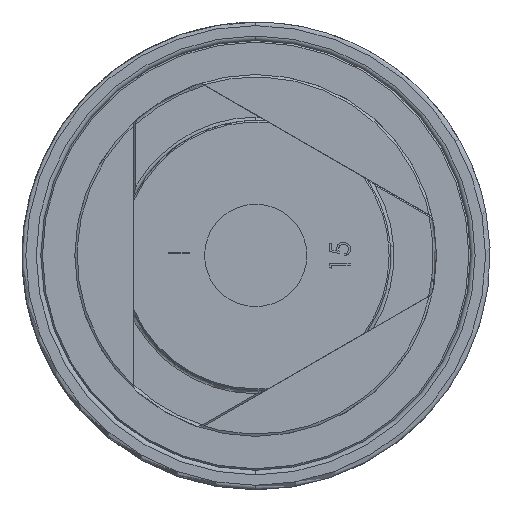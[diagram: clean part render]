
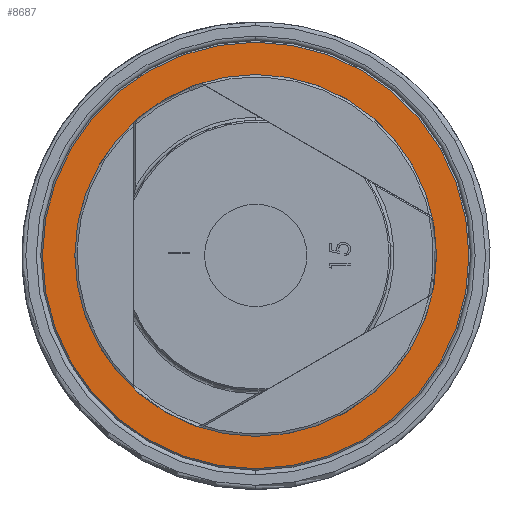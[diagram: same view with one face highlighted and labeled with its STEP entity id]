
A CAD part, left-side view. The second image highlights one B-rep face of the part: STEP entity #8687.
In plain terms, the highlighted planar face has unit normal (-1, 0, 0).
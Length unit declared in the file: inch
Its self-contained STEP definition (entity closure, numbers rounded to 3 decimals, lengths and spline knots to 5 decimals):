
#1 = CARTESIAN_POINT ( 'NONE',  ( -2.63751, -0.11214, -0.45599 ) ) ;
#2 = CARTESIAN_POINT ( 'NONE',  ( -2.63751, -0.11214, 1.77201 ) ) ;
#134 = DIRECTION ( 'NONE',  ( -1., 0., 0. ) ) ;
#721 = EDGE_CURVE ( 'NONE', #11844, #13186, #7480, .T. ) ;
#808 = EDGE_CURVE ( 'NONE', #13186, #11844, #13742, .T. ) ;
#1151 = DIRECTION ( 'NONE',  ( 0., 0., 1. ) ) ;
#1178 = PLANE ( 'NONE',  #8708 ) ;
#1377 = CARTESIAN_POINT ( 'NONE',  ( -2.63751, -0.11214, 0.65801 ) ) ;
#1871 = DIRECTION ( 'NONE',  ( -1., 0., 0. ) ) ;
#2012 = ORIENTED_EDGE ( 'NONE', *, *, #808, .T. ) ;
#2215 = CIRCLE ( 'NONE', #10510, 1.114 ) ;
#2263 = AXIS2_PLACEMENT_3D ( 'NONE', #1377, #5790, #6589 ) ;
#2647 = AXIS2_PLACEMENT_3D ( 'NONE', #12489, #11190, #3676 ) ;
#3676 = DIRECTION ( 'NONE',  ( 0., 0., -1. ) ) ;
#4231 = ORIENTED_EDGE ( 'NONE', *, *, #721, .T. ) ;
#4654 = CARTESIAN_POINT ( 'NONE',  ( -2.63751, -0.11214, -0.65499 ) ) ;
#4691 = VERTEX_POINT ( 'NONE', #2 ) ;
#4801 = EDGE_LOOP ( 'NONE', ( #2012, #4231 ) ) ;
#5303 = EDGE_CURVE ( 'NONE', #10922, #4691, #2215, .T. ) ;
#5665 = FACE_BOUND ( 'NONE', #8683, .T. ) ;
#5737 = DIRECTION ( 'NONE',  ( 0., -1., 0. ) ) ;
#5790 = DIRECTION ( 'NONE',  ( -1., 0., 0. ) ) ;
#6589 = DIRECTION ( 'NONE',  ( 0., 0., 1. ) ) ;
#6812 = CARTESIAN_POINT ( 'NONE',  ( -2.63751, -0.11214, 0.65801 ) ) ;
#7480 = CIRCLE ( 'NONE', #2647, 1.313 ) ;
#7685 = FACE_OUTER_BOUND ( 'NONE', #4801, .T. ) ;
#8144 = ORIENTED_EDGE ( 'NONE', *, *, #5303, .F. ) ;
#8683 = EDGE_LOOP ( 'NONE', ( #13921, #8144 ) ) ;
#8687 = ADVANCED_FACE ( 'NONE', ( #7685, #5665 ), #1178, .F. ) ;
#8708 = AXIS2_PLACEMENT_3D ( 'NONE', #6812, #11221, #5737 ) ;
#8948 = DIRECTION ( 'NONE',  ( 0., 0., -1. ) ) ;
#9625 = EDGE_CURVE ( 'NONE', #4691, #10922, #9874, .T. ) ;
#9874 = CIRCLE ( 'NONE', #2263, 1.114 ) ;
#10510 = AXIS2_PLACEMENT_3D ( 'NONE', #12859, #1871, #1151 ) ;
#10922 = VERTEX_POINT ( 'NONE', #1 ) ;
#11190 = DIRECTION ( 'NONE',  ( -1., 0., 0. ) ) ;
#11221 = DIRECTION ( 'NONE',  ( 1., 0., 0. ) ) ;
#11414 = AXIS2_PLACEMENT_3D ( 'NONE', #13288, #134, #8948 ) ;
#11844 = VERTEX_POINT ( 'NONE', #12987 ) ;
#12489 = CARTESIAN_POINT ( 'NONE',  ( -2.63751, -0.11214, 0.65801 ) ) ;
#12859 = CARTESIAN_POINT ( 'NONE',  ( -2.63751, -0.11214, 0.65801 ) ) ;
#12987 = CARTESIAN_POINT ( 'NONE',  ( -2.63751, -0.11214, 1.97101 ) ) ;
#13186 = VERTEX_POINT ( 'NONE', #4654 ) ;
#13288 = CARTESIAN_POINT ( 'NONE',  ( -2.63751, -0.11214, 0.65801 ) ) ;
#13742 = CIRCLE ( 'NONE', #11414, 1.313 ) ;
#13921 = ORIENTED_EDGE ( 'NONE', *, *, #9625, .F. ) ;
